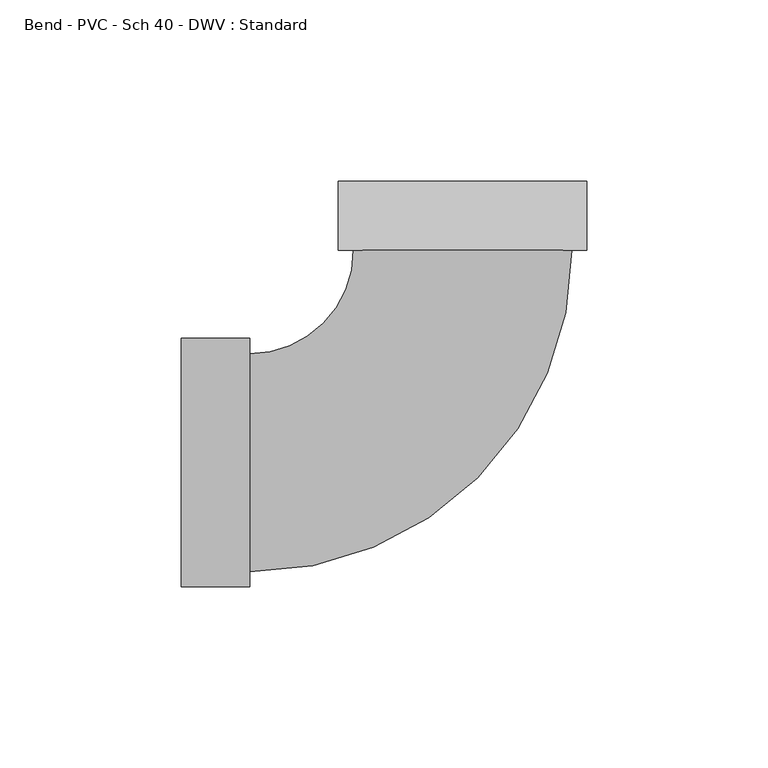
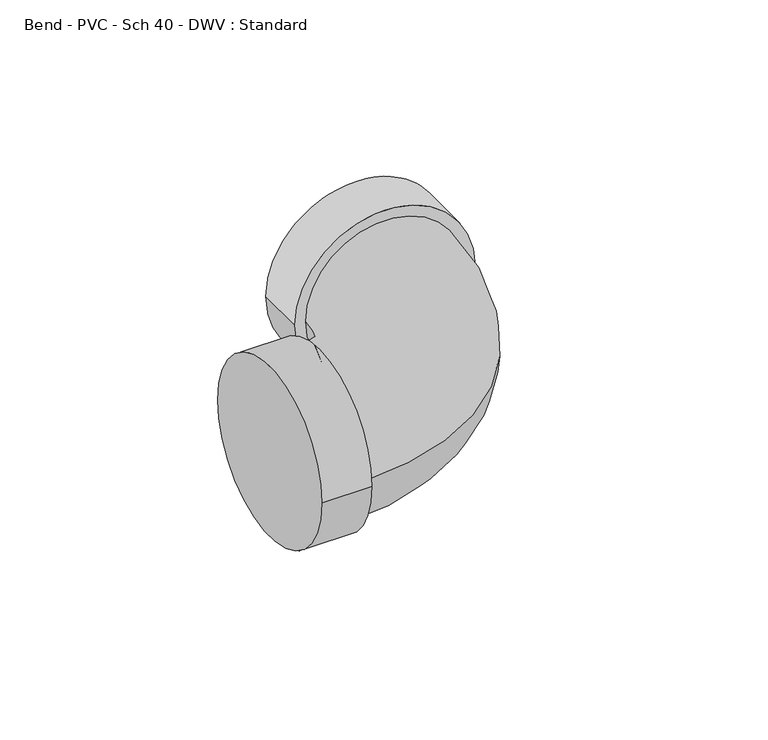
"""IFC4 building model written with IfcOpenShell, lengths in millimetres: pipe fitting geometry, Bend - PVC - Sch 40 - DWV : Standard."""

from ifc_helpers import new_model, si_unit, point, frame, origin, place, context, project, spatial, circle_curve, ellipse_curve, trimmed, source, transform, mapped, element, save
from ifc_brep_helpers import plane_surface, cylinder_surface, revolved_surface, advanced_brep


def bend_pvc_sch_40_dwv_standard_56c8873b(model_context):
    return source(origin(), model_context, "Body", "AdvancedBrep", [
        advanced_brep(
        [(-77.8002, -34.3154, 0.0), (-77.8002, 34.3154, 0.0), (-58.7502, -34.3154, 0.0), (-58.7502, 34.3154, 0.0), (-58.7502, -30.1625, 0.0), (-58.7502, 30.1625, 0.0), (-30.1624993, 58.7502004, 0.0), (30.1625007, 58.7501996, 0.0), (34.3154007, 58.7501996, 0.0), (-34.3153993, 58.7502004, 0.0), (34.315401, 77.8001996, 0.0), (-34.315399, 77.8002004, 0.0)],
        [
            (0, 1, circle_curve(frame((-77.8002, 0.0, 0.0), z_axis=(-1.0, 0.0, 0.0), x_axis=(0.0, 1.0, 0.0)), 34.3154)),
            (1, 0, circle_curve(frame((-77.8002, 0.0, 0.0), z_axis=(-1.0, 0.0, 0.0), x_axis=(0.0, 1.0, 0.0)), 34.3154)),
            (2, 3, circle_curve(frame((-58.7502, 0.0, 0.0), z_axis=(1.0, 0.0, 0.0), x_axis=(0.0, 1.0, 0.0)), 34.3154)),
            (3, 2, circle_curve(frame((-58.7502, 0.0, 0.0), z_axis=(1.0, 0.0, 0.0), x_axis=(0.0, 1.0, 0.0)), 34.3154)),
            (4, 5, circle_curve(frame((-58.7502, 0.0, 0.0), z_axis=(-1.0, 0.0, 0.0), x_axis=(0.0, 1.0, 0.0)), 30.1625)),
            (5, 4, circle_curve(frame((-58.7502, 0.0, 0.0), z_axis=(-1.0, 0.0, 0.0), x_axis=(0.0, 1.0, 0.0)), 30.1625)),
            (0, 2),
            (3, 1),
            (6, 5, circle_curve(frame((-58.7502, 58.7502007, 0.0), z_axis=(0.0, 0.0, -1.0), x_axis=(0.0, -1.0, 0.0)), 28.5877007)),
            (4, 7, circle_curve(frame((-58.7502, 58.7502007, 0.0), z_axis=(0.0, 0.0, 1.0), x_axis=(0.0, -1.0, 0.0)), 88.9127007)),
            (7, 6, circle_curve(frame((7e-07, 58.7502, 0.0), z_axis=(-1.2572905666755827e-08, -0.9999999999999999, 0.0), x_axis=(-0.9999999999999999, 1.2572905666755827e-08, 0.0)), 30.1625)),
            (6, 7, circle_curve(frame((7e-07, 58.7502, 0.0), z_axis=(-1.2572905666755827e-08, -0.9999999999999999, 0.0), x_axis=(-0.9999999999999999, 1.2572905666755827e-08, 0.0)), 30.1625)),
            (8, 9, circle_curve(frame((7e-07, 58.7502, 0.0), z_axis=(-1.2572907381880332e-08, -1.0, 0.0), x_axis=(-1.0, 1.2572907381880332e-08, 0.0)), 34.3154)),
            (9, 8, circle_curve(frame((7e-07, 58.7502, 0.0), z_axis=(-1.2572907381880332e-08, -1.0, 0.0), x_axis=(-1.0, 1.2572907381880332e-08, 0.0)), 34.3154)),
            (10, 11, circle_curve(frame((1e-06, 77.8002, 0.0), z_axis=(1.2572907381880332e-08, 1.0, 0.0), x_axis=(-1.0, 1.2572907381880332e-08, 0.0)), 34.3154)),
            (11, 10, circle_curve(frame((1e-06, 77.8002, 0.0), z_axis=(1.2572907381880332e-08, 1.0, 0.0), x_axis=(-1.0, 1.2572907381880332e-08, 0.0)), 34.3154)),
            (8, 10),
            (11, 9),
        ],
        [
            plane_surface(frame((-77.8002, 0.0, 0.0), z_axis=(-1.0, 0.0, 0.0), x_axis=(0.0, 0.0, 1.0))),
            plane_surface(frame((-58.7502, 0.0, 0.0), z_axis=(1.0, 0.0, 0.0), x_axis=(0.0, 0.0, 1.0))),
            cylinder_surface(frame((-77.8002, 0.0, 0.0), z_axis=(-1.0, 0.0, 0.0), x_axis=(0.0, 1.0, 0.0)), 34.3154),
            revolved_surface(trimmed(ellipse_curve(frame((-58.7502, 0.0, 0.0), z_axis=(-1.0, 0.0, 0.0), x_axis=(0.0, 1.0, 0.0)), 30.1625, 30.1625), [point((-58.7502, -30.1625, 0.0))], [point((-58.7502, 30.1625, 0.0))], True, "CARTESIAN"), (-58.7502, 58.7502007, 0.0), (0.0, 0.0, 1.0)),
            revolved_surface(trimmed(ellipse_curve(frame((-58.7502, 0.0, 0.0), z_axis=(-1.0, 0.0, 0.0), x_axis=(0.0, 1.0, 0.0)), 30.1625, 30.1625), [point((-58.7502, 30.1625, 0.0))], [point((-58.7502, -30.1625, 0.0))], True, "CARTESIAN"), (-58.7502, 58.7502007, 0.0), (0.0, 0.0, 1.0)),
            plane_surface(frame((7e-07, 58.7502, 0.0), z_axis=(-1.2572907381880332e-08, -1.0, 0.0), x_axis=(0.0, 0.0, 1.0))),
            plane_surface(frame((1e-06, 77.8002, 0.0), z_axis=(1.2572907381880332e-08, 1.0, 0.0), x_axis=(0.0, 0.0, 1.0))),
            cylinder_surface(frame((7e-07, 58.7502, 0.0), z_axis=(-1.2572907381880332e-08, -1.0, 0.0), x_axis=(-1.0, 1.2572907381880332e-08, 0.0)), 34.3154),
        ],
        [
            (0, [[1, 2]]),
            (1, [[3, 4], [5, 6]]),
            (2, [[-1, 7, -4, 8]]),
            (2, [[-2, -8, -3, -7]]),
            (3, [[9, -5, 10, 11]]),
            (4, [[-9, 12, -10, -6]]),
            (5, [[13, 14], [-11, -12]]),
            (6, [[15, 16]]),
            (7, [[-13, 17, -16, 18]]),
            (7, [[-14, -18, -15, -17]]),
        ],
    ),
    ])


if __name__ == "__main__":
    model = new_model("IFC4")
    model_context = context("Model", 3, world=origin())
    ifc_project = project(units=[si_unit("LENGTHUNIT", "METRE", prefix="MILLI")], contexts=[model_context])
    site = spatial("IfcSite", under=ifc_project)
    building = spatial("IfcBuilding", under=site)
    placement = place(None, origin())
    bend_pvc_sch_40_dwv_standard_shape = bend_pvc_sch_40_dwv_standard_56c8873b(model_context)
    element("IfcPipeFitting", 1, ObjectType="Bend - PVC - Sch 40 - DWV : Standard", at=placement, inside=building, context=model_context, shape_type="MappedRepresentation", body=[
        mapped(bend_pvc_sch_40_dwv_standard_shape, transform((0.0, 0.0, 0.0), x_axis=(1.0, 0.0, 0.0), y_axis=(0.0, 1.0, 0.0), z_axis=(0.0, 0.0, 1.0))),
    ])
    save(model, "model.ifc")
